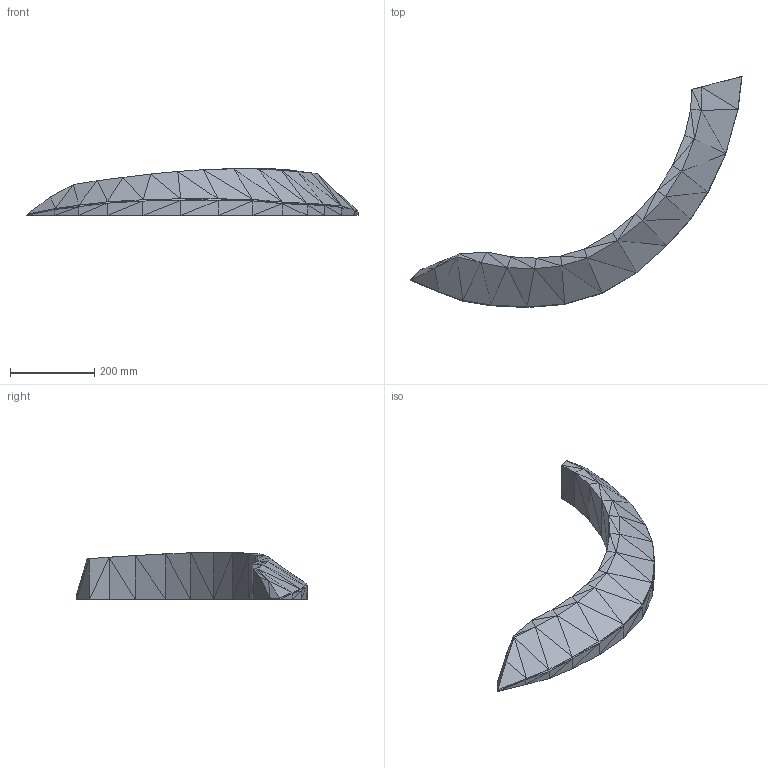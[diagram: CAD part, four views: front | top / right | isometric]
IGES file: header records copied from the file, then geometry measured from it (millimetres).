
Global section: file name: FLA Mould; native system: AutoCAD 2018 - English; preprocessor: Autodesk Translation Framework DWG producer (atf_dwg_producer); organization: unknown; date: 20180102.011230; units: millimetre
Bounding box: 788.26 x 548.56 x 111.44 mm (x, y, z)
Surface area: 358117.7 mm2 (no closed solid volume)
Topology: 0 solids, 0 shells, 166 faces, 747 edges, 996 vertices
Faces by surface type: bspline 166
